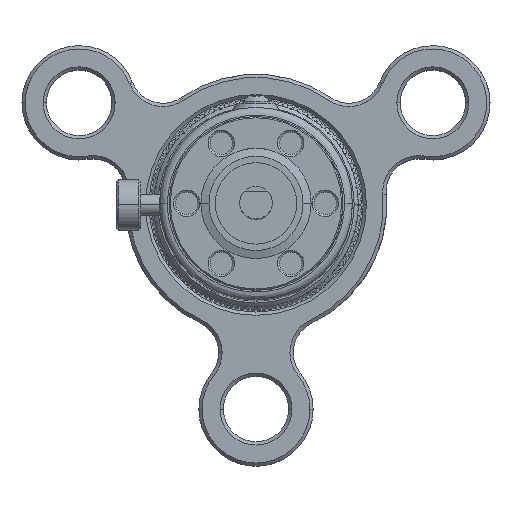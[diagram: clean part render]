
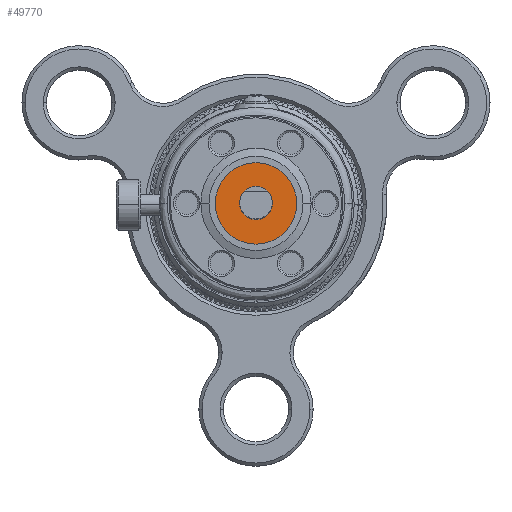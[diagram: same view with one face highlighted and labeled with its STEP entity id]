
A CAD part, top view. The second image highlights one B-rep face of the part: STEP entity #49770.
In plain terms, the highlighted planar face has unit normal (0, 0, 1).
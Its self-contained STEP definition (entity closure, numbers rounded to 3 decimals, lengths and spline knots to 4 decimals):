
#1876 = AXIS2_PLACEMENT_3D ( 'NONE', #37776, #37777, #37778 ) ;
#1909 = AXIS2_PLACEMENT_3D ( 'NONE', #16404, #16406, #16408 ) ;
#4302 = EDGE_CURVE ( 'NONE', #15350, #15331, #54715, .T. ) ;
#4393 = EDGE_CURVE ( 'NONE', #15340, #31256, #54753, .T. ) ;
#15331 = VERTEX_POINT ( 'NONE', #75604 ) ;
#15340 = VERTEX_POINT ( 'NONE', #75606 ) ;
#15350 = VERTEX_POINT ( 'NONE', #75587 ) ;
#16404 = CARTESIAN_POINT ( 'NONE',  ( 0., 0., -0.1499 ) ) ;
#16406 = DIRECTION ( 'NONE',  ( 0., 0., -1. ) ) ;
#16408 = DIRECTION ( 'NONE',  ( 0., -1., 0. ) ) ;
#19978 = CARTESIAN_POINT ( 'NONE',  ( 0., 0., -0.1499 ) ) ;
#19979 = DIRECTION ( 'NONE',  ( 0., 0., 1. ) ) ;
#19980 = DIRECTION ( 'NONE',  ( 1., 0., 0. ) ) ;
#20343 = CARTESIAN_POINT ( 'NONE',  ( 0., 0., -0.1499 ) ) ;
#20344 = DIRECTION ( 'NONE',  ( 0., 0., -1. ) ) ;
#20345 = DIRECTION ( 'NONE',  ( 0., -1., 0. ) ) ;
#20438 = EDGE_LOOP ( 'NONE', ( #53366, #53492 ) ) ;
#20495 = EDGE_LOOP ( 'NONE', ( #53570, #58874 ) ) ;
#24234 = CIRCLE ( 'NONE', #74800, 0.7912 ) ;
#24259 = CIRCLE ( 'NONE', #74806, 0.3175 ) ;
#26379 = CARTESIAN_POINT ( 'NONE',  ( 0., -0.3175, -0.1499 ) ) ;
#31256 = VERTEX_POINT ( 'NONE', #26379 ) ;
#36687 = EDGE_CURVE ( 'NONE', #15331, #15350, #24234, .T. ) ;
#36718 = EDGE_CURVE ( 'NONE', #31256, #15340, #24259, .T. ) ;
#37776 = CARTESIAN_POINT ( 'NONE',  ( 0., 0., -0.1499 ) ) ;
#37777 = DIRECTION ( 'NONE',  ( 0., 0., 1. ) ) ;
#37778 = DIRECTION ( 'NONE',  ( 1., 0., 0. ) ) ;
#48001 = FACE_BOUND ( 'NONE', #20495, .T. ) ;
#48010 = FACE_OUTER_BOUND ( 'NONE', #20438, .T. ) ;
#49770 = ADVANCED_FACE ( 'NONE', ( #48010, #48001 ), #68425, .T. ) ;
#53366 = ORIENTED_EDGE ( 'NONE', *, *, #36687, .T. ) ;
#53492 = ORIENTED_EDGE ( 'NONE', *, *, #4302, .T. ) ;
#53570 = ORIENTED_EDGE ( 'NONE', *, *, #36718, .T. ) ;
#54715 = CIRCLE ( 'NONE', #1876, 0.7912 ) ;
#54753 = CIRCLE ( 'NONE', #1909, 0.3175 ) ;
#58874 = ORIENTED_EDGE ( 'NONE', *, *, #4393, .T. ) ;
#68361 = CARTESIAN_POINT ( 'NONE',  ( 0., 0.7633, -0.1499 ) ) ;
#68425 = PLANE ( 'NONE',  #68837 ) ;
#68427 = DIRECTION ( 'NONE',  ( 0., 0., 1. ) ) ;
#68428 = DIRECTION ( 'NONE',  ( 0., -1., 0. ) ) ;
#68837 = AXIS2_PLACEMENT_3D ( 'NONE', #68361, #68427, #68428 ) ;
#74800 = AXIS2_PLACEMENT_3D ( 'NONE', #19978, #19979, #19980 ) ;
#74806 = AXIS2_PLACEMENT_3D ( 'NONE', #20343, #20344, #20345 ) ;
#75587 = CARTESIAN_POINT ( 'NONE',  ( -0.7912, 0., -0.1499 ) ) ;
#75604 = CARTESIAN_POINT ( 'NONE',  ( 0.7912, 0., -0.1499 ) ) ;
#75606 = CARTESIAN_POINT ( 'NONE',  ( 0., 0.3175, -0.1499 ) ) ;
